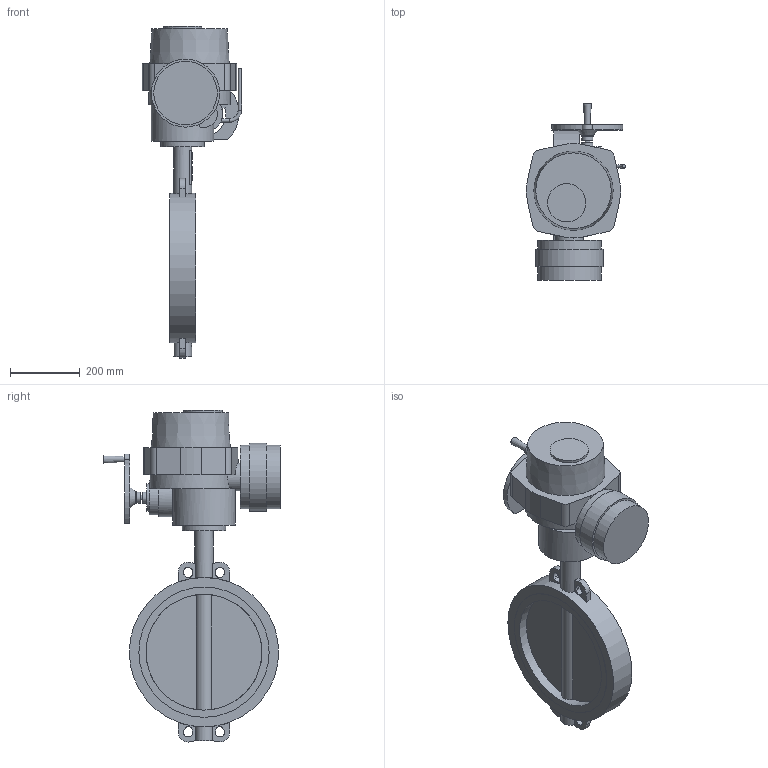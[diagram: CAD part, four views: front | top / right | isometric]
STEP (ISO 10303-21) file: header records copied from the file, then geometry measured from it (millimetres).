
FILE_DESCRIPTION(('STEP AP203'), '1');
FILE_NAME('Çàòâîð 017W.Z(ñòàëü) DN350+ÝÏ QT.A120', '', ('UNSPECIFIED'), ('UNSPECIFIED'), 'ASCON STEP Converter 1.6', 'ASCON Math Kernel', '');
FILE_SCHEMA(('CONFIG_CONTROL_DESIGN'));
Length unit declared in the file: millimetre
Bounding box: 285.64 x 509 x 955.48 mm (x, y, z)
Volume: 24994964.1 mm3; surface area: 1103288.7 mm2
Topology: 1 solids, 1 shells, 893 faces, 2517 edges, 1673 vertices
Faces by surface type: cylinder 651, plane 238, cone 3, torus 1
Full cylindrical faces by diameter (mm): 10 x6, 12 x4, 14 x4, 16 x1, 32 x2, 35 x1, 52 x1, 80 x2, 100 x1, 110 x1, 125 x1, 180 x1, 183 x2, 196 x1, 333.3 x2, 375 x2, 430 x1
Entity records: 37734 total; most frequent: CARTESIAN_POINT 6259, DIRECTION 5584, ORIENTED_EDGE 4960, EDGE_CURVE 2480, AXIS2_PLACEMENT_3D 2233, VERTEX_POINT 1673, CIRCLE 1339, LINE 1118
